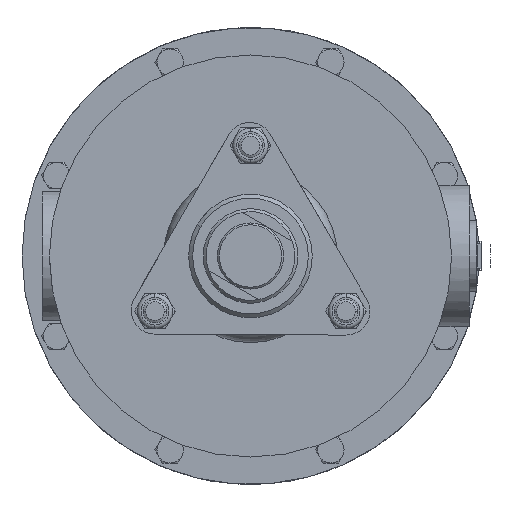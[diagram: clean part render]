
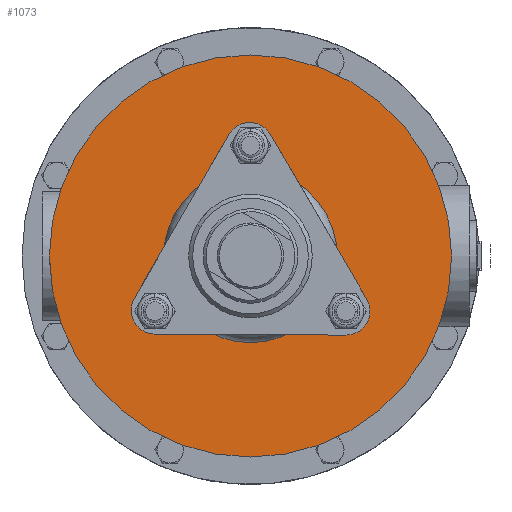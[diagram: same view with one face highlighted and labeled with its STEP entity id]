
A CAD part, front view. The second image highlights one B-rep face of the part: STEP entity #1073.
In plain terms, the highlighted planar face has unit normal (0, -1, 0).
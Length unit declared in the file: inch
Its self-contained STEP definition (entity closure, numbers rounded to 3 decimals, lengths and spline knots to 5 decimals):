
#502=CARTESIAN_POINT('',(0.,-7.188,0.));
#503=DIRECTION('',(0.,-1.,0.));
#504=DIRECTION('',(-1.,0.,0.));
#505=AXIS2_PLACEMENT_3D('',#502,#503,#504);
#507=CARTESIAN_POINT('',(0.,-7.188,0.));
#508=DIRECTION('',(0.,1.,0.));
#509=DIRECTION('',(-1.,0.,0.));
#510=AXIS2_PLACEMENT_3D('',#507,#508,#509);
#524=CARTESIAN_POINT('',(-3.19,-7.188,0.));
#525=CARTESIAN_POINT('',(3.19,-7.188,0.));
#526=VERTEX_POINT('',#524);
#527=VERTEX_POINT('',#525);
#1064=CARTESIAN_POINT('',(0.,-7.188,0.));
#1065=DIRECTION('',(0.,1.,0.));
#1066=DIRECTION('',(1.,0.,0.));
#1067=AXIS2_PLACEMENT_3D('',#1064,#1065,#1066);
#1068=PLANE('',#1067);
#1069=ORIENTED_EDGE('',*,*,#1043,.F.);
#1070=ORIENTED_EDGE('',*,*,#1059,.T.);
#1071=EDGE_LOOP('',(#1069,#1070));
#1072=FACE_OUTER_BOUND('',#1071,.F.);
#1073=ADVANCED_FACE('',(#1072),#1068,.F.);
#506=CIRCLE('',#505,3.19);
#511=CIRCLE('',#510,3.19);
#1043=EDGE_CURVE('',#526,#527,#506,.T.);
#1059=EDGE_CURVE('',#526,#527,#511,.T.);
